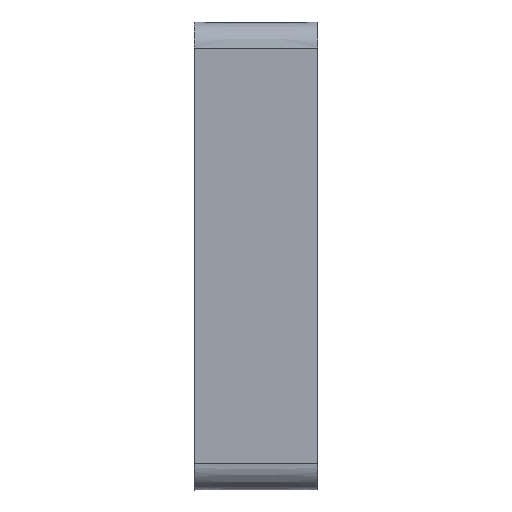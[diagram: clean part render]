
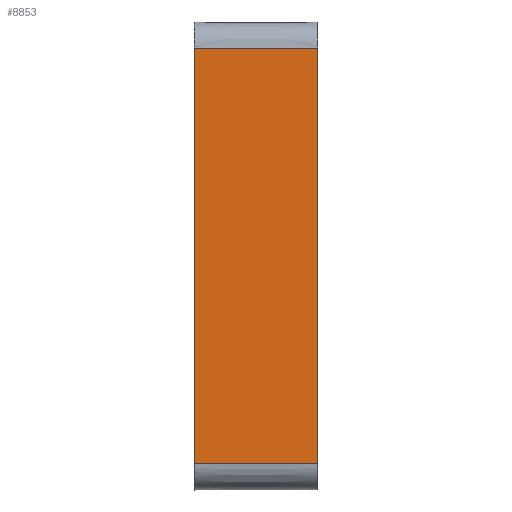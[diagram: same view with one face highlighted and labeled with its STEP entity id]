
A CAD part, left-side view. The second image highlights one B-rep face of the part: STEP entity #8853.
In plain terms, the highlighted planar face has unit normal (-1, 0, 0).
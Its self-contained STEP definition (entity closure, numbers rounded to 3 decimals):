
#206 = CARTESIAN_POINT ( 'NONE',  ( -225.5, 0., 142.532 ) ) ;
#725 = CARTESIAN_POINT ( 'NONE',  ( -225.5, 0., -142.532 ) ) ;
#1067 = DIRECTION ( 'NONE',  ( 0., 0., -1. ) ) ;
#1091 = EDGE_CURVE ( 'NONE', #9920, #11009, #7983, .T. ) ;
#1134 = CARTESIAN_POINT ( 'NONE',  ( -225.5, 0., 142.532 ) ) ;
#2414 = VECTOR ( 'NONE', #7871, 1000. ) ;
#3152 = VECTOR ( 'NONE', #1067, 1000. ) ;
#3311 = VERTEX_POINT ( 'NONE', #4279 ) ;
#3538 = EDGE_LOOP ( 'NONE', ( #6561, #3749, #4328, #10448 ) ) ;
#3708 = CARTESIAN_POINT ( 'NONE',  ( -225.5, 0., 142.532 ) ) ;
#3715 = CARTESIAN_POINT ( 'NONE',  ( -225.5, 85., -142.532 ) ) ;
#3749 = ORIENTED_EDGE ( 'NONE', *, *, #5601, .T. ) ;
#3926 = FACE_OUTER_BOUND ( 'NONE', #3538, .T. ) ;
#4236 = LINE ( 'NONE', #725, #4793 ) ;
#4279 = CARTESIAN_POINT ( 'NONE',  ( -225.5, 85., 142.532 ) ) ;
#4328 = ORIENTED_EDGE ( 'NONE', *, *, #6847, .T. ) ;
#4793 = VECTOR ( 'NONE', #7700, 1000. ) ;
#5539 = CARTESIAN_POINT ( 'NONE',  ( -225.5, 0., 142.532 ) ) ;
#5601 = EDGE_CURVE ( 'NONE', #3311, #7192, #9754, .T. ) ;
#6170 = LINE ( 'NONE', #1134, #10973 ) ;
#6262 = DIRECTION ( 'NONE',  ( 0., 1., 0. ) ) ;
#6561 = ORIENTED_EDGE ( 'NONE', *, *, #8608, .F. ) ;
#6847 = EDGE_CURVE ( 'NONE', #7192, #11009, #4236, .T. ) ;
#7173 = DIRECTION ( 'NONE',  ( 1., 0., 0. ) ) ;
#7192 = VERTEX_POINT ( 'NONE', #3715 ) ;
#7700 = DIRECTION ( 'NONE',  ( 0., -1., 0. ) ) ;
#7865 = AXIS2_PLACEMENT_3D ( 'NONE', #3708, #7173, #6262 ) ;
#7871 = DIRECTION ( 'NONE',  ( 0., 0., -1. ) ) ;
#7983 = LINE ( 'NONE', #206, #3152 ) ;
#8046 = CARTESIAN_POINT ( 'NONE',  ( -225.5, 85., 142.532 ) ) ;
#8608 = EDGE_CURVE ( 'NONE', #3311, #9920, #6170, .T. ) ;
#8789 = DIRECTION ( 'NONE',  ( 0., -1., 0. ) ) ;
#8853 = ADVANCED_FACE ( 'NONE', ( #3926 ), #10591, .F. ) ;
#8877 = CARTESIAN_POINT ( 'NONE',  ( -225.5, 0., -142.532 ) ) ;
#9754 = LINE ( 'NONE', #8046, #2414 ) ;
#9920 = VERTEX_POINT ( 'NONE', #5539 ) ;
#10448 = ORIENTED_EDGE ( 'NONE', *, *, #1091, .F. ) ;
#10591 = PLANE ( 'NONE',  #7865 ) ;
#10973 = VECTOR ( 'NONE', #8789, 1000. ) ;
#11009 = VERTEX_POINT ( 'NONE', #8877 ) ;
